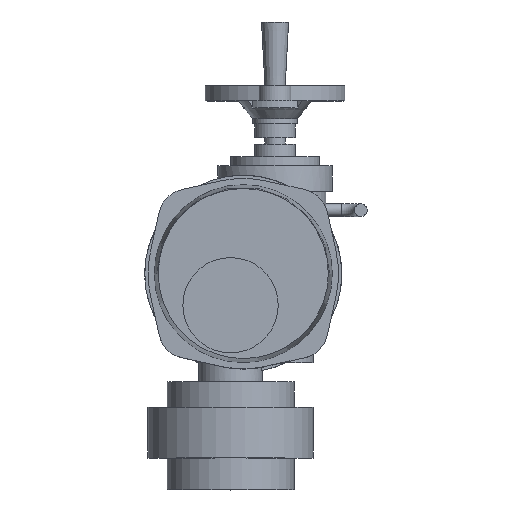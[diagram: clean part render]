
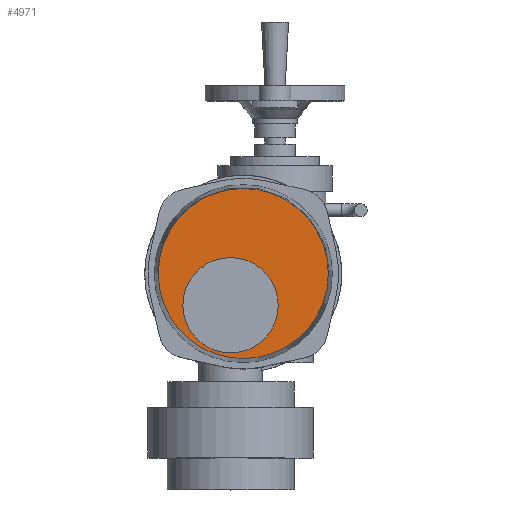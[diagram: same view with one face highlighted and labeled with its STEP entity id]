
A CAD part, top view. The second image highlights one B-rep face of the part: STEP entity #4971.
In plain terms, the highlighted planar face has unit normal (0, 0, 1).
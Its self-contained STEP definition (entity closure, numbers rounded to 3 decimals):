
#4971=ADVANCED_FACE('',(#10327,#10329),#10331,.T.);
#10327=FACE_BOUND('',#10328,.T.);
#10328=EDGE_LOOP('',(#14148));
#10329=FACE_BOUND('',#10330,.T.);
#10330=EDGE_LOOP('',(#14149));
#10331=PLANE('',#10332);
#10332=AXIS2_PLACEMENT_3D('',#10333,#10334,#10335);
#10333=CARTESIAN_POINT('',(15.,30.,371.));
#10334=DIRECTION('',(0.,0.,1.));
#10335=DIRECTION('',(-1.,0.,0.));
#14148=ORIENTED_EDGE('',*,*,#16024,.T.);
#14149=ORIENTED_EDGE('',*,*,#16863,.F.);
#16024=EDGE_CURVE('',#18575,#18575,#18576,.T.);
#16863=EDGE_CURVE('',#19833,#19833,#19834,.T.);
#18575=VERTEX_POINT('',#24571);
#18576=CIRCLE('',#24572,66.908);
#19833=VERTEX_POINT('',#27796);
#19834=CIRCLE('',#27797,37.5);
#24571=CARTESIAN_POINT('',(-51.908,30.,371.));
#24572=AXIS2_PLACEMENT_3D('',#24573,#24574,#24575);
#24573=CARTESIAN_POINT('',(15.,30.,371.));
#24574=DIRECTION('',(0.,0.,1.));
#24575=DIRECTION('',(-1.,0.,0.));
#27796=CARTESIAN_POINT('',(-32.5,5.,371.));
#27797=AXIS2_PLACEMENT_3D('',#27798,#27799,#27800);
#27798=CARTESIAN_POINT('',(5.,5.,371.));
#27799=DIRECTION('',(0.,0.,1.));
#27800=DIRECTION('',(-1.,0.,0.));
